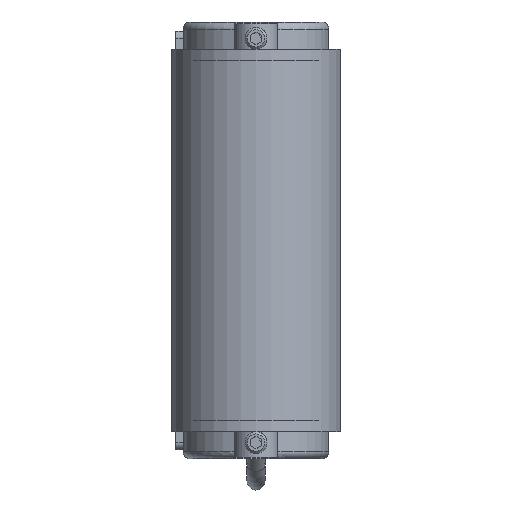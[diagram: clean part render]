
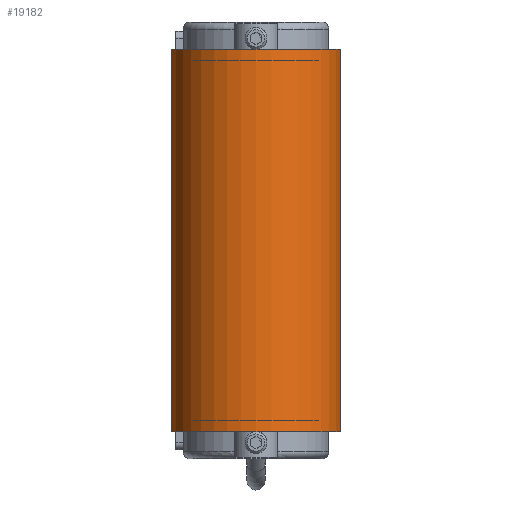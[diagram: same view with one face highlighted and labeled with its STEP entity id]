
A CAD part, front view. The second image highlights one B-rep face of the part: STEP entity #19182.
In plain terms, the highlighted cylindrical face has radius 23.3 mm (diameter 46.6 mm), a partial arc.
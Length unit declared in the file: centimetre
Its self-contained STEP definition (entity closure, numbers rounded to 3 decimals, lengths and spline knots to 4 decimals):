
#553=CYLINDRICAL_SURFACE('',#20492,2.33);
#1159=CIRCLE('',#20487,2.33);
#1162=CIRCLE('',#20493,2.33);
#1974=FACE_OUTER_BOUND('',#3017,.T.);
#3017=EDGE_LOOP('',(#12968,#12969,#12970,#12971));
#4341=LINE('',#28229,#5898);
#4342=LINE('',#28233,#5899);
#5898=VECTOR('',#23088,1.);
#5899=VECTOR('',#23093,1.);
#7615=VERTEX_POINT('',#28212);
#7616=VERTEX_POINT('',#28213);
#7621=VERTEX_POINT('',#28227);
#7622=VERTEX_POINT('',#28231);
#9697=EDGE_CURVE('',#7615,#7616,#1159,.T.);
#9705=EDGE_CURVE('',#7621,#7616,#4341,.T.);
#9706=EDGE_CURVE('',#7621,#7622,#1162,.T.);
#9707=EDGE_CURVE('',#7615,#7622,#4342,.T.);
#12968=ORIENTED_EDGE('',*,*,#9706,.T.);
#12969=ORIENTED_EDGE('',*,*,#9707,.F.);
#12970=ORIENTED_EDGE('',*,*,#9697,.T.);
#12971=ORIENTED_EDGE('',*,*,#9705,.F.);
#19182=ADVANCED_FACE('',(#1974),#553,.T.);
#20487=AXIS2_PLACEMENT_3D('',#28214,#23073,#23074);
#20492=AXIS2_PLACEMENT_3D('',#28230,#23089,#23090);
#20493=AXIS2_PLACEMENT_3D('',#28232,#23091,#23092);
#23073=DIRECTION('center_axis',(0.,0.,
-1.));
#23074=DIRECTION('ref_axis',(-1.,0.,0.));
#23088=DIRECTION('',(0.,0.,1.));
#23089=DIRECTION('center_axis',(0.,0.,
-1.));
#23090=DIRECTION('ref_axis',(-1.,0.,0.));
#23091=DIRECTION('center_axis',(0.,0.,
1.));
#23092=DIRECTION('ref_axis',(-1.,0.,0.));
#23093=DIRECTION('',(0.,0.,-1.));
#28212=CARTESIAN_POINT('',(2.33,-32.,5.25));
#28213=CARTESIAN_POINT('',(-2.33,-32.,5.25));
#28214=CARTESIAN_POINT('Origin',(0.,-32.,5.25));
#28227=CARTESIAN_POINT('',(-2.33,-32.,-5.25));
#28229=CARTESIAN_POINT('',(-2.33,-32.,0.));
#28230=CARTESIAN_POINT('Origin',(0.,-32.,0.));
#28231=CARTESIAN_POINT('',(2.33,-32.,-5.25));
#28232=CARTESIAN_POINT('Origin',(0.,-32.,-5.25));
#28233=CARTESIAN_POINT('',(2.33,-32.,0.));
